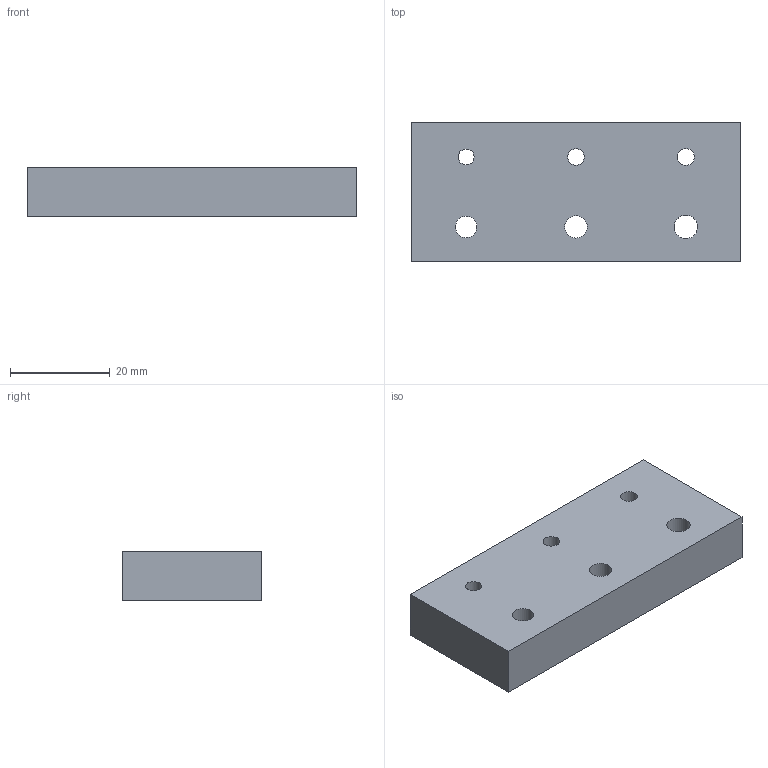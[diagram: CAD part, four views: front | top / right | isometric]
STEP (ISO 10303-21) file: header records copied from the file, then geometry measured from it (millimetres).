
FILE_DESCRIPTION(('Open CASCADE Model'),'2;1');
FILE_NAME('Open CASCADE Shape Model','2026-11-08T06:43:59',('Author'),( 'Open CASCADE'),'Open CASCADE STEP processor 7.8','Open CASCADE 7.8' ,'Unknown');
FILE_SCHEMA(('AUTOMOTIVE_DESIGN { 1 0 10303 214 1 1 1 1 }'));
Length unit declared in the file: millimetre
Products named in the file (1): Open CASCADE STEP translator 7.8 19
Bounding box: 66 x 28 x 10 mm (x, y, z)
Volume: 17745.5 mm3; surface area: 6164.2 mm2
Topology: 1 solids, 1 shells, 12 faces, 30 edges, 20 vertices
Faces by surface type: plane 6, cylinder 6
Full cylindrical faces by diameter (mm): 3.2 x1, 3.3 x1, 3.4 x1, 4.3 x1, 4.5 x1, 4.7 x1
Entity records: 790 total; most frequent: DIRECTION 128, CARTESIAN_POINT 123, LINE 66, VECTOR 66, ORIENTED_EDGE 60, PCURVE 60, DEFINITIONAL_REPRESENTATION 60, EDGE_CURVE 30
